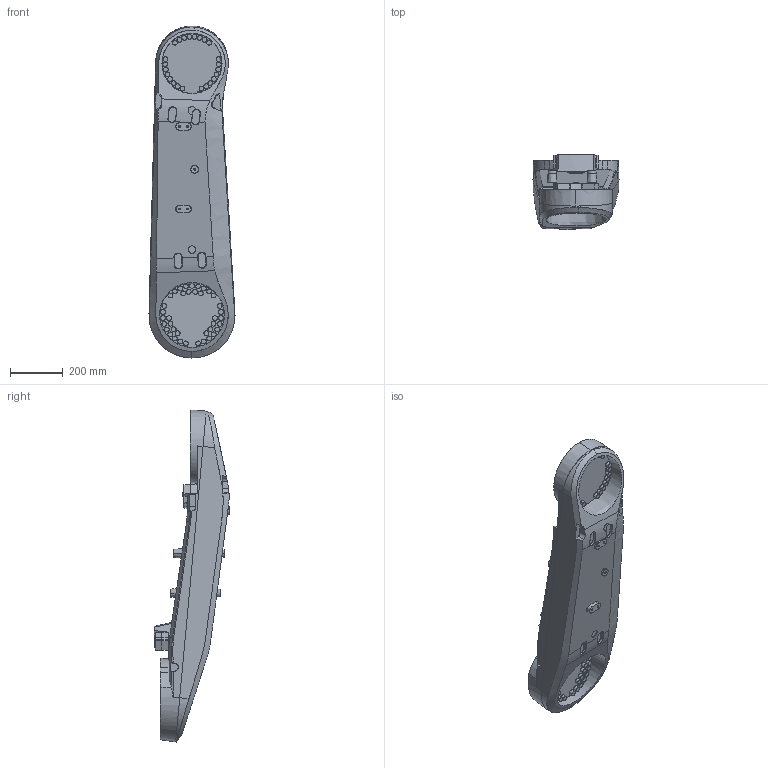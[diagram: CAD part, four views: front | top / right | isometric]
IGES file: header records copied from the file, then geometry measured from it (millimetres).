
Start section: SolidWorks IGES file using analytic representation for surfaces
Global section: file name: C:\Users\SEALDUN\OneDrive - ABB\Documents\R&D Robotics\Work Items\WI 632927\IGES\IRB5710-LID-MH_90kg-230_OC_02_IGES_J\IRB5710-LID_90kg-230_OmniCore_rev00_LINK02_CAD.igs; native system: SolidWorks 2024; preprocessor: SolidWorks 2024; author: SEALDUN; date: 250707.154156; units: millimetre
Bounding box: 324.93 x 285 x 1254.29 mm (x, y, z)
Surface area: 1320677.9 mm2 (no closed solid volume)
Topology: 0 solids, 0 shells, 535 faces, 10409 edges, 10397 vertices
Faces by surface type: bspline 297, revolution 238
